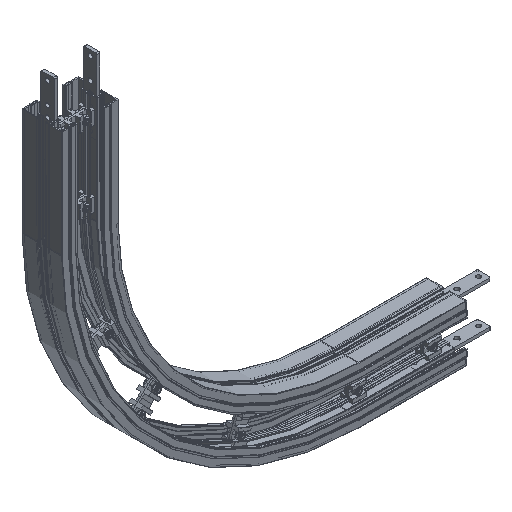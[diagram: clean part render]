
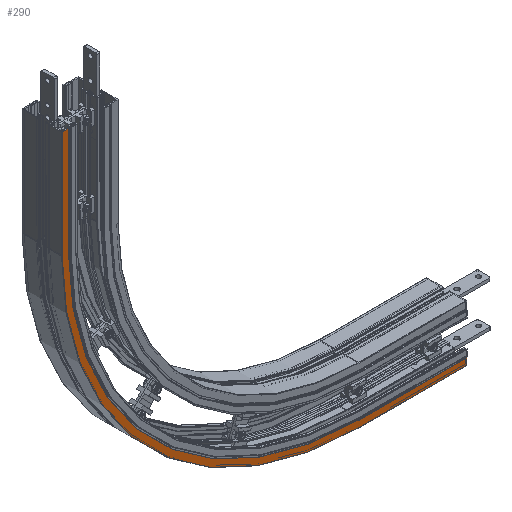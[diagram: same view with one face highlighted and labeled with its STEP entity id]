
A CAD part, isometric view. The second image highlights one B-rep face of the part: STEP entity #290.
In plain terms, the highlighted planar face has unit normal (0, -1, 0).
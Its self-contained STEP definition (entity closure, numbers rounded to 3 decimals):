
#290 = ADVANCED_FACE ( 'NONE', ( #9678 ), #9672, .F. ) ;
#1196 = ORIENTED_EDGE ( 'NONE', *, *, #6359, .T. ) ;
#1197 = ORIENTED_EDGE ( 'NONE', *, *, #6360, .F. ) ;
#1198 = ORIENTED_EDGE ( 'NONE', *, *, #6361, .F. ) ;
#1199 = ORIENTED_EDGE ( 'NONE', *, *, #6362, .F. ) ;
#1200 = ORIENTED_EDGE ( 'NONE', *, *, #6363, .F. ) ;
#1201 = ORIENTED_EDGE ( 'NONE', *, *, #6364, .T. ) ;
#1202 = ORIENTED_EDGE ( 'NONE', *, *, #6365, .T. ) ;
#1203 = ORIENTED_EDGE ( 'NONE', *, *, #6357, .T. ) ;
#1805 = VERTEX_POINT ( 'NONE', #11183 ) ;
#1817 = VERTEX_POINT ( 'NONE', #11195 ) ;
#1858 = EDGE_LOOP ( 'NONE', ( #1196, #1197, #1198, #1199, #1200, #1201, #1202, #1203 ) ) ;
#1875 = VERTEX_POINT ( 'NONE', #11213 ) ;
#1881 = VERTEX_POINT ( 'NONE', #11219 ) ;
#1882 = VERTEX_POINT ( 'NONE', #11220 ) ;
#1883 = VERTEX_POINT ( 'NONE', #11221 ) ;
#1884 = VERTEX_POINT ( 'NONE', #11222 ) ;
#1889 = VERTEX_POINT ( 'NONE', #11227 ) ;
#6357 = EDGE_CURVE ( 'NONE', #1881, #1882, #21143, .T. ) ;
#6359 = EDGE_CURVE ( 'NONE', #1882, #1817, #21148, .T. ) ;
#6360 = EDGE_CURVE ( 'NONE', #1883, #1817, #21151, .T. ) ;
#6361 = EDGE_CURVE ( 'NONE', #1884, #1883, #19536, .T. ) ;
#6362 = EDGE_CURVE ( 'NONE', #1875, #1884, #21155, .T. ) ;
#6363 = EDGE_CURVE ( 'NONE', #1805, #1875, #21160, .T. ) ;
#6364 = EDGE_CURVE ( 'NONE', #1805, #1889, #21163, .T. ) ;
#6365 = EDGE_CURVE ( 'NONE', #1889, #1881, #19544, .T. ) ;
#8693 = AXIS2_PLACEMENT_3D ( 'NONE', #9674, #9679, #9680 ) ;
#9672 = PLANE ( 'NONE',  #8693 ) ;
#9674 = CARTESIAN_POINT ( 'NONE',  ( 200., -0.5, -39.8 ) ) ;
#9678 = FACE_OUTER_BOUND ( 'NONE', #1858, .T. ) ;
#9679 = DIRECTION ( 'NONE',  ( 0., 1., 0. ) ) ;
#9680 = DIRECTION ( 'NONE',  ( 0., 0., 1. ) ) ;
#11183 = CARTESIAN_POINT ( 'NONE',  ( 739.8, -0.5, 700. ) ) ;
#11195 = CARTESIAN_POINT ( 'NONE',  ( 0., -0.5, -52. ) ) ;
#11213 = CARTESIAN_POINT ( 'NONE',  ( 752., -0.5, 700. ) ) ;
#11219 = CARTESIAN_POINT ( 'NONE',  ( 200., -0.5, -39.8 ) ) ;
#11220 = CARTESIAN_POINT ( 'NONE',  ( 0., -0.5, -39.8 ) ) ;
#11221 = CARTESIAN_POINT ( 'NONE',  ( 200., -0.5, -52. ) ) ;
#11222 = CARTESIAN_POINT ( 'NONE',  ( 752., -0.5, 500. ) ) ;
#11227 = CARTESIAN_POINT ( 'NONE',  ( 739.8, -0.5, 500. ) ) ;
#19535 = VECTOR ( 'NONE', #21145, 1000. ) ;
#19536 = CIRCLE ( 'NONE', #19541, 552. ) ;
#19537 = VECTOR ( 'NONE', #21150, 1000. ) ;
#19538 = VECTOR ( 'NONE', #21154, 1000. ) ;
#19539 = VECTOR ( 'NONE', #21159, 1000. ) ;
#19541 = AXIS2_PLACEMENT_3D ( 'NONE', #21156, #21157, #21158 ) ;
#19542 = VECTOR ( 'NONE', #21162, 1000. ) ;
#19543 = VECTOR ( 'NONE', #21165, 1000. ) ;
#19544 = CIRCLE ( 'NONE', #19546, 539.8 ) ;
#19546 = AXIS2_PLACEMENT_3D ( 'NONE', #21168, #21169, #21170 ) ;
#21143 = LINE ( 'NONE', #21144, #19535 ) ;
#21144 = CARTESIAN_POINT ( 'NONE',  ( 200., -0.5, -39.8 ) ) ;
#21145 = DIRECTION ( 'NONE',  ( -1., 0., 0. ) ) ;
#21148 = LINE ( 'NONE', #21149, #19537 ) ;
#21149 = CARTESIAN_POINT ( 'NONE',  ( 0., -0.5, -39.8 ) ) ;
#21150 = DIRECTION ( 'NONE',  ( 0., 0., -1. ) ) ;
#21151 = LINE ( 'NONE', #21153, #19538 ) ;
#21152 = CARTESIAN_POINT ( 'NONE',  ( 752., -0.5, 700. ) ) ;
#21153 = CARTESIAN_POINT ( 'NONE',  ( 200., -0.5, -52. ) ) ;
#21154 = DIRECTION ( 'NONE',  ( -1., 0., 0. ) ) ;
#21155 = LINE ( 'NONE', #21152, #19539 ) ;
#21156 = CARTESIAN_POINT ( 'NONE',  ( 200., -0.5, 500. ) ) ;
#21157 = DIRECTION ( 'NONE',  ( 0., 1., 0. ) ) ;
#21158 = DIRECTION ( 'NONE',  ( 0., 0., 1. ) ) ;
#21159 = DIRECTION ( 'NONE',  ( 0., 0., -1. ) ) ;
#21160 = LINE ( 'NONE', #21161, #19542 ) ;
#21161 = CARTESIAN_POINT ( 'NONE',  ( 739.8, -0.5, 700. ) ) ;
#21162 = DIRECTION ( 'NONE',  ( 1., 0., 0. ) ) ;
#21163 = LINE ( 'NONE', #21164, #19543 ) ;
#21164 = CARTESIAN_POINT ( 'NONE',  ( 739.8, -0.5, 700. ) ) ;
#21165 = DIRECTION ( 'NONE',  ( 0., 0., -1. ) ) ;
#21168 = CARTESIAN_POINT ( 'NONE',  ( 200., -0.5, 500. ) ) ;
#21169 = DIRECTION ( 'NONE',  ( 0., 1., 0. ) ) ;
#21170 = DIRECTION ( 'NONE',  ( 0., 0., 1. ) ) ;
